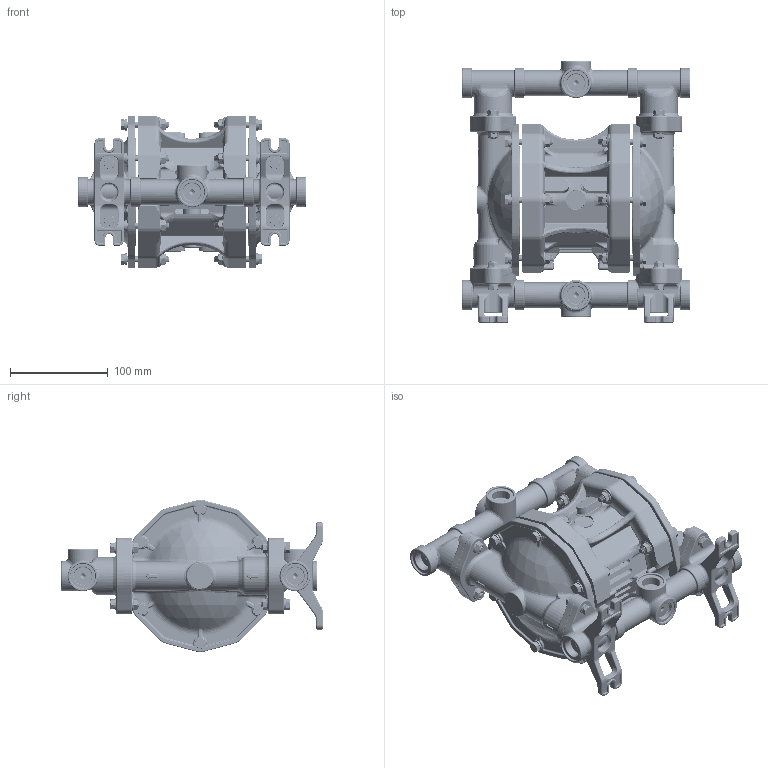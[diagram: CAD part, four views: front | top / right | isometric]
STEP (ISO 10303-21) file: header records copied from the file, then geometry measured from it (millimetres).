
FILE_DESCRIPTION (( 'STEP AP203' ), '1' );
FILE_NAME ('P 55 AISI.STEP', '2021-02-24T07:40:40', ( 'User' ), ( 'Hewlett-Packard Company' ), 'SwSTEP 2.0', 'SolidWorks 2018', '' );
FILE_SCHEMA (( 'CONFIG_CONTROL_DESIGN' ));
Length unit declared in the file: millimetre
Products named in the file (1): P 55 AISI
Bounding box: 234 x 268.6 x 156.29 mm (x, y, z)
Volume: 1213840.7 mm3; surface area: 482587.3 mm2
Topology: 67 solids, 81 shells, 11083 faces, 24912 edges, 13613 vertices
Faces by surface type: torus 3049, cylinder 2914, cone 2050, bspline 1549, plane 1195, sphere 326
Entity records: 369378 total; most frequent: CARTESIAN_POINT 132705, DIRECTION 52697, ORIENTED_EDGE 48812, EDGE_CURVE 24406, AXIS2_PLACEMENT_3D 23086, CIRCLE 13551, VERTEX_POINT 13514, EDGE_LOOP 11342
